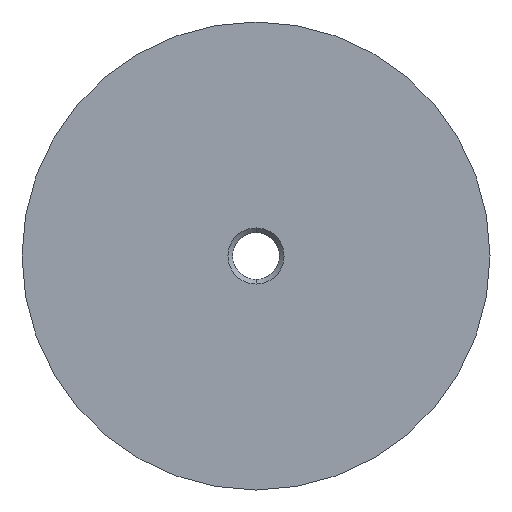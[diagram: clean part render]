
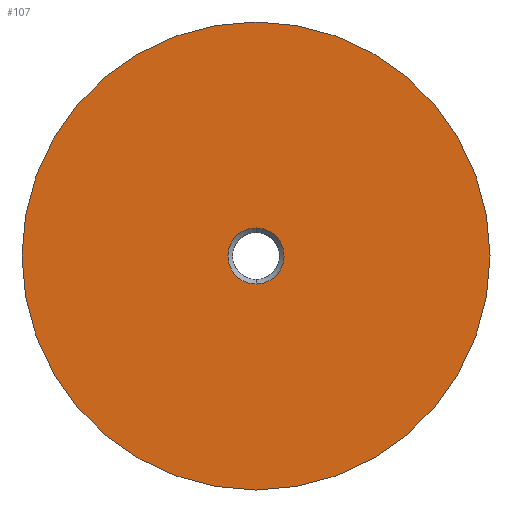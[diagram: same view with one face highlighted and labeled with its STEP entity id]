
A CAD part, front view. The second image highlights one B-rep face of the part: STEP entity #107.
In plain terms, the highlighted planar face has unit normal (0, -1, 0).
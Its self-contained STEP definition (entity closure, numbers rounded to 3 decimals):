
#5 = VERTEX_POINT ( 'NONE', #166 ) ;
#7 = DIRECTION ( 'NONE',  ( 1., 0., 0. ) ) ;
#13 = CARTESIAN_POINT ( 'NONE',  ( 0., -5., 0. ) ) ;
#24 = CIRCLE ( 'NONE', #238, 3. ) ;
#34 = CIRCLE ( 'NONE', #118, 25. ) ;
#39 = DIRECTION ( 'NONE',  ( 0., -1., 0. ) ) ;
#41 = EDGE_CURVE ( 'NONE', #197, #187, #24, .T. ) ;
#45 = DIRECTION ( 'NONE',  ( 0., 0., -1. ) ) ;
#54 = CARTESIAN_POINT ( 'NONE',  ( 0., -5., 0. ) ) ;
#88 = DIRECTION ( 'NONE',  ( 0., -1., 0. ) ) ;
#107 = ADVANCED_FACE ( 'NONE', ( #144, #277 ), #311, .T. ) ;
#117 = EDGE_CURVE ( 'NONE', #336, #5, #347, .T. ) ;
#118 = AXIS2_PLACEMENT_3D ( 'NONE', #13, #227, #243 ) ;
#124 = DIRECTION ( 'NONE',  ( 1., 0., 0. ) ) ;
#132 = DIRECTION ( 'NONE',  ( 0., -1., 0. ) ) ;
#144 = FACE_BOUND ( 'NONE', #286, .T. ) ;
#152 = CARTESIAN_POINT ( 'NONE',  ( 0., -5., -3. ) ) ;
#158 = CARTESIAN_POINT ( 'NONE',  ( 0., -5., 0. ) ) ;
#165 = ORIENTED_EDGE ( 'NONE', *, *, #41, .F. ) ;
#166 = CARTESIAN_POINT ( 'NONE',  ( -25., -5., 0. ) ) ;
#173 = EDGE_LOOP ( 'NONE', ( #241, #278 ) ) ;
#175 = AXIS2_PLACEMENT_3D ( 'NONE', #158, #132, #201 ) ;
#187 = VERTEX_POINT ( 'NONE', #152 ) ;
#197 = VERTEX_POINT ( 'NONE', #288 ) ;
#201 = DIRECTION ( 'NONE',  ( 0., 0., -1. ) ) ;
#205 = CARTESIAN_POINT ( 'NONE',  ( 0., -5., 0. ) ) ;
#207 = EDGE_CURVE ( 'NONE', #5, #336, #34, .T. ) ;
#208 = ORIENTED_EDGE ( 'NONE', *, *, #299, .F. ) ;
#227 = DIRECTION ( 'NONE',  ( 0., -1., 0. ) ) ;
#228 = CARTESIAN_POINT ( 'NONE',  ( 25., -5., 0. ) ) ;
#238 = AXIS2_PLACEMENT_3D ( 'NONE', #205, #39, #45 ) ;
#241 = ORIENTED_EDGE ( 'NONE', *, *, #207, .T. ) ;
#243 = DIRECTION ( 'NONE',  ( 1., 0., 0. ) ) ;
#264 = DIRECTION ( 'NONE',  ( 0., -1., 0. ) ) ;
#277 = FACE_OUTER_BOUND ( 'NONE', #173, .T. ) ;
#278 = ORIENTED_EDGE ( 'NONE', *, *, #117, .T. ) ;
#286 = EDGE_LOOP ( 'NONE', ( #208, #165 ) ) ;
#288 = CARTESIAN_POINT ( 'NONE',  ( 0., -5., 3. ) ) ;
#292 = CARTESIAN_POINT ( 'NONE',  ( 0., -5., 0. ) ) ;
#299 = EDGE_CURVE ( 'NONE', #187, #197, #344, .T. ) ;
#311 = PLANE ( 'NONE',  #342 ) ;
#327 = AXIS2_PLACEMENT_3D ( 'NONE', #292, #88, #7 ) ;
#336 = VERTEX_POINT ( 'NONE', #228 ) ;
#342 = AXIS2_PLACEMENT_3D ( 'NONE', #54, #264, #124 ) ;
#344 = CIRCLE ( 'NONE', #175, 3. ) ;
#347 = CIRCLE ( 'NONE', #327, 25. ) ;
